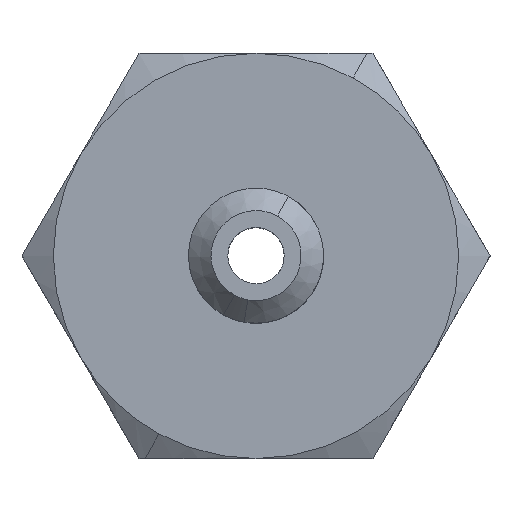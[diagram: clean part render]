
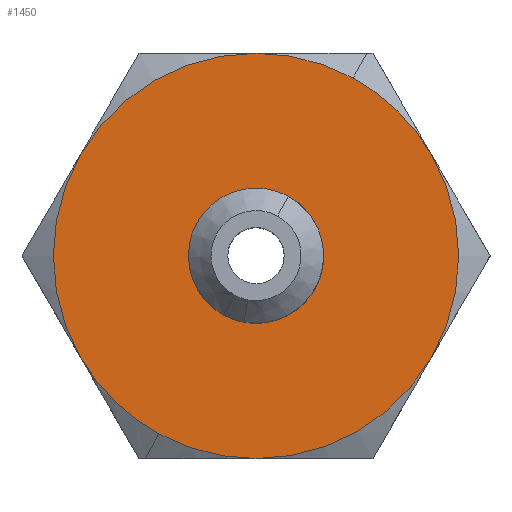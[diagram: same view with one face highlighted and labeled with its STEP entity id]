
A CAD part, top view. The second image highlights one B-rep face of the part: STEP entity #1450.
In plain terms, the highlighted planar face has unit normal (0, 0, 1).
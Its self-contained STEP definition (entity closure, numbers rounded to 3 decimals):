
#901=CARTESIAN_POINT('Vertex',(7.794,4.5,14.)) ;
#959=CARTESIAN_POINT('Vertex',(7.794,-4.5,14.)) ;
#1010=CARTESIAN_POINT('Vertex',(0.,-9.,14.)) ;
#1076=CARTESIAN_POINT('Vertex',(-7.794,-4.5,14.)) ;
#1127=CARTESIAN_POINT('Vertex',(-7.794,4.5,14.)) ;
#1178=CARTESIAN_POINT('Vertex',(0.,9.,14.)) ;
#1250=CARTESIAN_POINT('Axis2P3D Location',(0.,0.,14.)) ;
#1265=CARTESIAN_POINT('Vertex',(4.315,7.898,14.)) ;
#1268=CARTESIAN_POINT('Axis2P3D Location',(0.,0.,14.)) ;
#1280=CARTESIAN_POINT('Axis2P3D Location',(0.,0.,14.)) ;
#1291=CARTESIAN_POINT('Axis2P3D Location',(0.,0.,14.)) ;
#1295=CARTESIAN_POINT('Vertex',(-4.315,-7.898,14.)) ;
#1309=CARTESIAN_POINT('Axis2P3D Location',(0.,0.,14.)) ;
#1321=CARTESIAN_POINT('Axis2P3D Location',(0.,0.,14.)) ;
#1332=CARTESIAN_POINT('Axis2P3D Location',(0.,0.,14.)) ;
#1344=CARTESIAN_POINT('Control Point',(0.,9.,14.)) ;
#1345=CARTESIAN_POINT('Control Point',(1.125,9.,14.)) ;
#1346=CARTESIAN_POINT('Control Point',(2.25,8.812,14.)) ;
#1347=CARTESIAN_POINT('Control Point',(3.328,8.438,14.)) ;
#1348=CARTESIAN_POINT('Control Point',(4.315,7.898,14.)) ;
#1399=CARTESIAN_POINT('Axis2P3D Location',(0.,-12.,14.)) ;
#1415=CARTESIAN_POINT('Control Point',(-1.438,-2.633,14.)) ;
#1416=CARTESIAN_POINT('Control Point',(-1.14,-2.795,14.)) ;
#1417=CARTESIAN_POINT('Control Point',(-0.82,-2.916,14.)) ;
#1418=CARTESIAN_POINT('Control Point',(-0.483,-2.99,14.)) ;
#1419=CARTESIAN_POINT('Control Point',(0.2,-3.041,14.)) ;
#1420=CARTESIAN_POINT('Control Point',(0.871,-2.901,14.)) ;
#1421=CARTESIAN_POINT('Control Point',(1.194,-2.784,14.)) ;
#1422=CARTESIAN_POINT('Control Point',(1.799,-2.46,14.)) ;
#1423=CARTESIAN_POINT('Control Point',(2.29,-1.982,14.)) ;
#1424=CARTESIAN_POINT('Control Point',(2.5,-1.71,14.)) ;
#1425=CARTESIAN_POINT('Control Point',(2.837,-1.113,14.)) ;
#1426=CARTESIAN_POINT('Control Point',(2.996,-0.446,14.)) ;
#1427=CARTESIAN_POINT('Control Point',(3.027,-0.103,14.)) ;
#1428=CARTESIAN_POINT('Control Point',(2.992,0.581,14.)) ;
#1429=CARTESIAN_POINT('Control Point',(2.768,1.229,14.)) ;
#1430=CARTESIAN_POINT('Control Point',(2.611,1.535,14.)) ;
#1431=CARTESIAN_POINT('Control Point',(2.303,1.97,14.)) ;
#1432=CARTESIAN_POINT('Control Point',(1.911,2.324,14.)) ;
#1433=CARTESIAN_POINT('Control Point',(1.761,2.44,14.)) ;
#1434=CARTESIAN_POINT('Control Point',(1.603,2.543,14.)) ;
#1435=CARTESIAN_POINT('Control Point',(1.438,2.633,14.)) ;
#1436=CARTESIAN_POINT('Vertex',(-1.438,-2.633,14.)) ;
#1438=CARTESIAN_POINT('Vertex',(1.438,2.633,14.)) ;
#1441=CARTESIAN_POINT('Axis2P3D Location',(0.,0.,14.)) ;
#1251=DIRECTION('Axis2P3D Direction',(0.,0.,-1.)) ;
#1269=DIRECTION('Axis2P3D Direction',(0.,0.,-1.)) ;
#1281=DIRECTION('Axis2P3D Direction',(0.,0.,-1.)) ;
#1292=DIRECTION('Axis2P3D Direction',(0.,0.,-1.)) ;
#1310=DIRECTION('Axis2P3D Direction',(0.,0.,-1.)) ;
#1322=DIRECTION('Axis2P3D Direction',(0.,0.,-1.)) ;
#1333=DIRECTION('Axis2P3D Direction',(0.,0.,-1.)) ;
#1400=DIRECTION('Axis2P3D Direction',(0.,0.,-1.)) ;
#1401=DIRECTION('Axis2P3D XDirection',(1.,0.,0.)) ;
#1442=DIRECTION('Axis2P3D Direction',(0.,0.,-1.)) ;
#1252=AXIS2_PLACEMENT_3D('Circle Axis2P3D',#1250,#1251,$) ;
#1270=AXIS2_PLACEMENT_3D('Circle Axis2P3D',#1268,#1269,$) ;
#1282=AXIS2_PLACEMENT_3D('Circle Axis2P3D',#1280,#1281,$) ;
#1293=AXIS2_PLACEMENT_3D('Circle Axis2P3D',#1291,#1292,$) ;
#1311=AXIS2_PLACEMENT_3D('Circle Axis2P3D',#1309,#1310,$) ;
#1323=AXIS2_PLACEMENT_3D('Circle Axis2P3D',#1321,#1322,$) ;
#1334=AXIS2_PLACEMENT_3D('Circle Axis2P3D',#1332,#1333,$) ;
#1402=AXIS2_PLACEMENT_3D('Plane Axis2P3D',#1399,#1400,#1401) ;
#1443=AXIS2_PLACEMENT_3D('Circle Axis2P3D',#1441,#1442,$) ;
#1253=CIRCLE('generated circle',#1252,9.) ;
#1271=CIRCLE('generated circle',#1270,9.) ;
#1283=CIRCLE('generated circle',#1282,9.) ;
#1294=CIRCLE('generated circle',#1293,9.) ;
#1312=CIRCLE('generated circle',#1311,9.) ;
#1324=CIRCLE('generated circle',#1323,9.) ;
#1335=CIRCLE('generated circle',#1334,9.) ;
#1444=CIRCLE('generated circle',#1443,3.) ;
#1403=PLANE('',#1402) ;
#1449=FACE_BOUND('',#1446,.T.) ;
#1254=EDGE_CURVE('',#902,#960,#1253,.T.) ;
#1272=EDGE_CURVE('',#1266,#902,#1271,.T.) ;
#1284=EDGE_CURVE('',#960,#1011,#1283,.T.) ;
#1297=EDGE_CURVE('',#1011,#1296,#1294,.T.) ;
#1313=EDGE_CURVE('',#1296,#1077,#1312,.T.) ;
#1325=EDGE_CURVE('',#1077,#1128,#1324,.T.) ;
#1336=EDGE_CURVE('',#1128,#1179,#1335,.T.) ;
#1349=EDGE_CURVE('',#1179,#1266,#1343,.T.) ;
#1440=EDGE_CURVE('',#1437,#1439,#1414,.T.) ;
#1445=EDGE_CURVE('',#1439,#1437,#1444,.F.) ;
#1405=ORIENTED_EDGE('',*,*,#1284,.F.) ;
#1406=ORIENTED_EDGE('',*,*,#1254,.F.) ;
#1407=ORIENTED_EDGE('',*,*,#1272,.F.) ;
#1408=ORIENTED_EDGE('',*,*,#1349,.F.) ;
#1409=ORIENTED_EDGE('',*,*,#1336,.F.) ;
#1410=ORIENTED_EDGE('',*,*,#1325,.F.) ;
#1411=ORIENTED_EDGE('',*,*,#1313,.F.) ;
#1412=ORIENTED_EDGE('',*,*,#1297,.F.) ;
#1447=ORIENTED_EDGE('',*,*,#1440,.F.) ;
#1448=ORIENTED_EDGE('',*,*,#1445,.F.) ;
#1404=EDGE_LOOP('',(#1405,#1406,#1407,#1408,#1409,#1410,#1411,#1412)) ;
#1446=EDGE_LOOP('',(#1447,#1448)) ;
#902=VERTEX_POINT('',#901) ;
#960=VERTEX_POINT('',#959) ;
#1011=VERTEX_POINT('',#1010) ;
#1077=VERTEX_POINT('',#1076) ;
#1128=VERTEX_POINT('',#1127) ;
#1179=VERTEX_POINT('',#1178) ;
#1266=VERTEX_POINT('',#1265) ;
#1296=VERTEX_POINT('',#1295) ;
#1437=VERTEX_POINT('',#1436) ;
#1439=VERTEX_POINT('',#1438) ;
#1450=ADVANCED_FACE('Body.2',(#1413,#1449),#1403,.F.) ;
#1343=B_SPLINE_CURVE_WITH_KNOTS('',4,(#1344,#1345,#1346,#1347,#1348),.UNSPECIFIED.,.F.,.U.,(5,5),(-25.,25.),.UNSPECIFIED.) ;
#1414=B_SPLINE_CURVE_WITH_KNOTS('',5,(#1415,#1416,#1417,#1418,#1419,#1420,#1421,#1422,#1423,#1424,#1425,#1426,#1427,#1428,#1429,#1430,#1431,#1432,#1433,#1434,#1435),.UNSPECIFIED.,.F.,.U.,(6,3,3,3,3,3,6),(0.,2.407,4.814,7.221,9.628,12.035,13.369),.UNSPECIFIED.) ;
#1413=FACE_OUTER_BOUND('',#1404,.T.) ;
